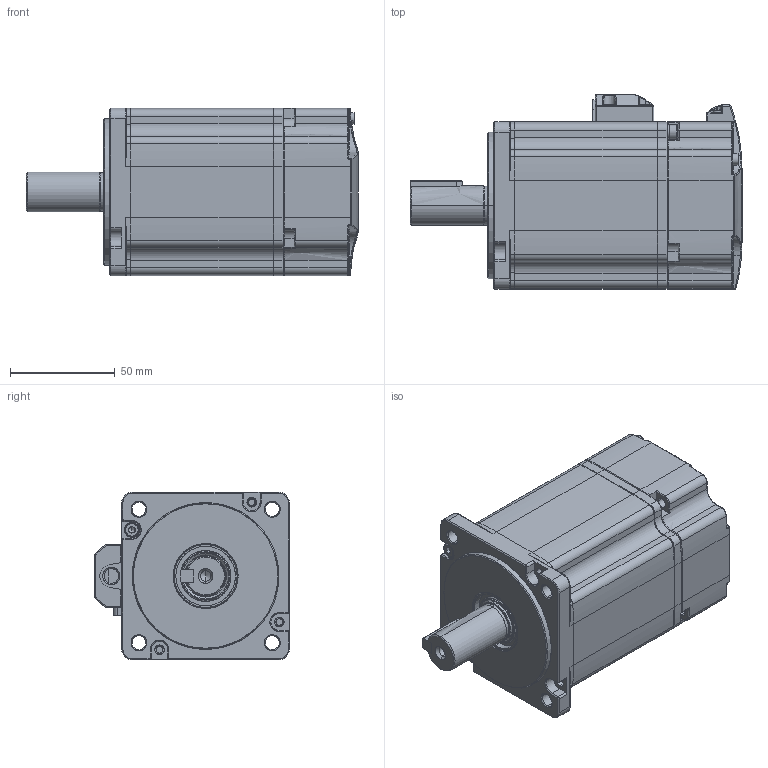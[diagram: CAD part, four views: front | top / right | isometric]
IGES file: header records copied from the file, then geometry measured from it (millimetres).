
Start section: SolidWorks IGES file using analytic representation for surfaces
Bounding box: 158.5 x 93 x 80 mm (x, y, z)
Surface area: 149216.6 mm2 (no closed solid volume)
Topology: 0 solids, 0 shells, 1939 faces, 24832 edges, 24755 vertices
Faces by surface type: bspline 971, revolution 968
